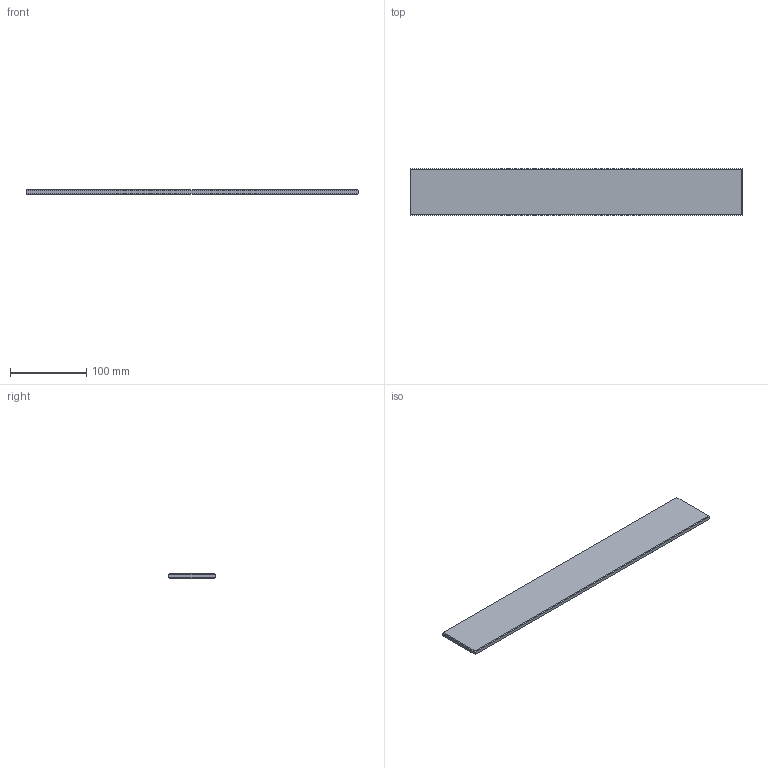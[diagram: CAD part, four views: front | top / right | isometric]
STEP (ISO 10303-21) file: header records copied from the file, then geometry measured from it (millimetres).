
FILE_DESCRIPTION((''),'2;1');
FILE_NAME('238466-HI','2023-01-30T08:14:58',('1ke04'),('Kesseboehmer'),'CREO PARAMETRIC BY PTC INC, 2020414','CREO PARAMETRIC BY PTC INC, 2020414','');
FILE_SCHEMA(('AUTOMOTIVE_DESIGN { 1 0 10303 214 1 1 1 1 }'));
Length unit declared in the file: millimetre
Products named in the file (1): 238466-HI
Bounding box: 435 x 61 x 6 mm (x, y, z)
Volume: 158220.7 mm3; surface area: 57856.5 mm2
Topology: 1 solids, 1 shells, 14 faces, 28 edges, 16 vertices
Faces by surface type: plane 14
Entity records: 966 total; most frequent: COLOUR_RGB 194, DIRECTION 81, CARTESIAN_POINT 76, ORIENTED_EDGE 56, PROPERTY_DEFINITION 39, REPRESENTATION 38, PROPERTY_DEFINITION_REPRESENTATION 38, PRESENTATION_STYLE_ASSIGNMENT 32
